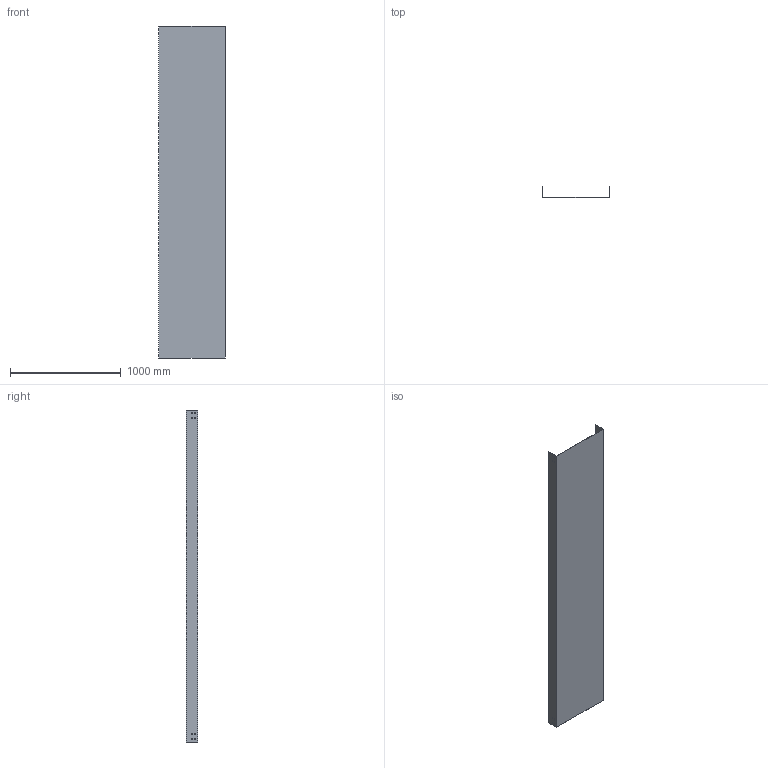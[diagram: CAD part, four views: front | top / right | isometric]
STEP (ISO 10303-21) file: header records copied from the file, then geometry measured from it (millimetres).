
FILE_DESCRIPTION (( 'STEP AP214' ), '1' );
FILE_NAME ('CC_601.step', '2025-07-16T09:04:53', ( '' ), ( '' ), 'SwSTEP 2.0', 'SolidWorks 2023', '' );
FILE_SCHEMA (( 'AUTOMOTIVE_DESIGN' ));
Length unit declared in the file: millimetre
Products named in the file (1): CC_601
Bounding box: 600 x 100 x 3000 mm (x, y, z)
Volume: 3584820 mm3; surface area: 4791967 mm2
Topology: 1 solids, 1 shells, 74 faces, 216 edges, 144 vertices
Faces by surface type: plane 74
Entity records: 2487 total; most frequent: CARTESIAN_POINT 435, ORIENTED_EDGE 432, DIRECTION 366, EDGE_CURVE 216, LINE 216, VECTOR 216, VERTEX_POINT 144, EDGE_LOOP 106
